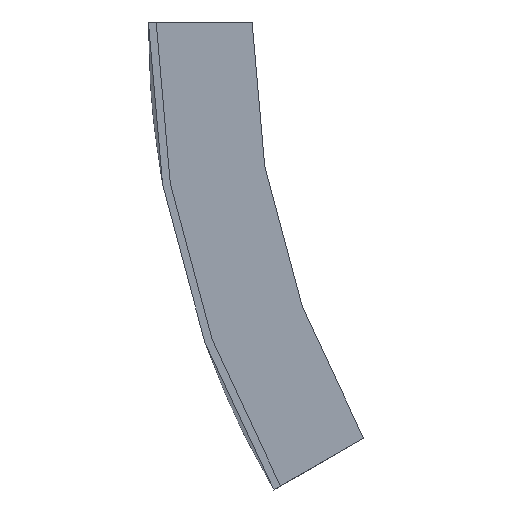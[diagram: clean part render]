
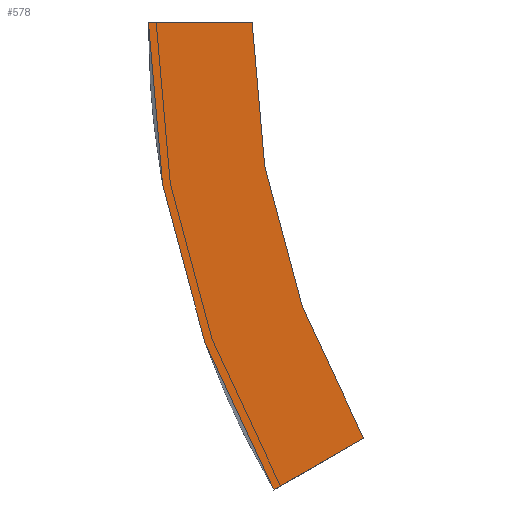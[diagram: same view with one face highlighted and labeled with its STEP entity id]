
A CAD part, left-side view. The second image highlights one B-rep face of the part: STEP entity #578.
In plain terms, the highlighted planar face has unit normal (-1, 0, 0).
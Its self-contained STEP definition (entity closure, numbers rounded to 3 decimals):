
#4 = CIRCLE ( 'NONE', #249, 180.5 ) ;
#13 = AXIS2_PLACEMENT_3D ( 'NONE', #560, #463, #113 ) ;
#19 = EDGE_CURVE ( 'NONE', #357, #392, #4, .T. ) ;
#42 = CARTESIAN_POINT ( 'NONE',  ( -253.5, 0., 0. ) ) ;
#49 = EDGE_CURVE ( 'NONE', #392, #153, #366, .T. ) ;
#67 = DIRECTION ( 'NONE',  ( 1., 0., 0. ) ) ;
#92 = FACE_OUTER_BOUND ( 'NONE', #217, .T. ) ;
#101 = EDGE_CURVE ( 'NONE', #153, #441, #485, .T. ) ;
#113 = DIRECTION ( 'NONE',  ( 0., 0., 1. ) ) ;
#130 = CARTESIAN_POINT ( 'NONE',  ( -253.5, -41.503, -80.25 ) ) ;
#144 = DIRECTION ( 'NONE',  ( 0., 0., -1. ) ) ;
#153 = VERTEX_POINT ( 'NONE', #518 ) ;
#161 = ORIENTED_EDGE ( 'NONE', *, *, #19, .F. ) ;
#179 = CARTESIAN_POINT ( 'NONE',  ( -253.5, -41.503, -80.25 ) ) ;
#217 = EDGE_LOOP ( 'NONE', ( #161, #300, #296, #292 ) ) ;
#226 = AXIS2_PLACEMENT_3D ( 'NONE', #413, #599, #144 ) ;
#249 = AXIS2_PLACEMENT_3D ( 'NONE', #344, #67, #253 ) ;
#252 = VECTOR ( 'NONE', #556, 1000. ) ;
#253 = DIRECTION ( 'NONE',  ( 0., 0., 1. ) ) ;
#278 = PLANE ( 'NONE',  #13 ) ;
#292 = ORIENTED_EDGE ( 'NONE', *, *, #49, .F. ) ;
#296 = ORIENTED_EDGE ( 'NONE', *, *, #101, .F. ) ;
#300 = ORIENTED_EDGE ( 'NONE', *, *, #419, .F. ) ;
#319 = CARTESIAN_POINT ( 'NONE',  ( -253.5, -20., 0. ) ) ;
#344 = CARTESIAN_POINT ( 'NONE',  ( -253.5, -180.5, 0. ) ) ;
#354 = CARTESIAN_POINT ( 'NONE',  ( -253.5, -24.182, -90.25 ) ) ;
#357 = VERTEX_POINT ( 'NONE', #354 ) ;
#366 = LINE ( 'NONE', #319, #252 ) ;
#392 = VERTEX_POINT ( 'NONE', #42 ) ;
#404 = LINE ( 'NONE', #130, #483 ) ;
#412 = DIRECTION ( 'NONE',  ( 0., 0.866, -0.5 ) ) ;
#413 = CARTESIAN_POINT ( 'NONE',  ( -253.5, -180.5, 0. ) ) ;
#419 = EDGE_CURVE ( 'NONE', #441, #357, #404, .T. ) ;
#441 = VERTEX_POINT ( 'NONE', #179 ) ;
#463 = DIRECTION ( 'NONE',  ( -1., 0., 0. ) ) ;
#483 = VECTOR ( 'NONE', #412, 1000. ) ;
#485 = CIRCLE ( 'NONE', #226, 160.5 ) ;
#518 = CARTESIAN_POINT ( 'NONE',  ( -253.5, -20., 0. ) ) ;
#556 = DIRECTION ( 'NONE',  ( 0., -1., 0. ) ) ;
#560 = CARTESIAN_POINT ( 'NONE',  ( -253.5, -180.5, 0. ) ) ;
#578 = ADVANCED_FACE ( 'NONE', ( #92 ), #278, .T. ) ;
#599 = DIRECTION ( 'NONE',  ( -1., 0., 0. ) ) ;
